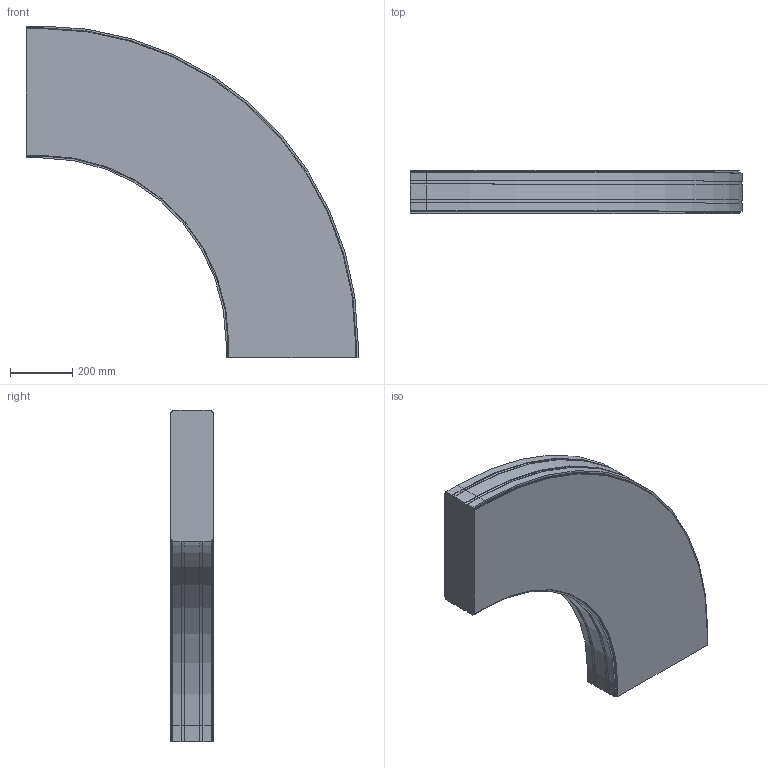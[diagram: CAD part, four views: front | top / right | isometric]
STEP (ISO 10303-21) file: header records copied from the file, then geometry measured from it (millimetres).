
FILE_DESCRIPTION (( 'STEP AP214' ), '1' );
FILE_NAME ('FS-MTC2-150-INOX horizontaalbocht.420 90°.STEP', '2017-02-08T12:40:35', ( '' ), ( '' ), 'SwSTEP 2.0', 'SolidWorks 2016', '' );
FILE_SCHEMA (( 'AUTOMOTIVE_DESIGN' ));
Length unit declared in the file: millimetre
Products named in the file (1): FS-MTC2-150-INOX horizontaalbocht.420 90°
Bounding box: 1064 x 136.5 x 1064 mm (x, y, z)
Volume: 78198407.9 mm3; surface area: 1665764 mm2
Topology: 1 solids, 1 shells, 74 faces, 216 edges, 144 vertices
Faces by surface type: plane 56, cylinder 18
Entity records: 2470 total; most frequent: CARTESIAN_POINT 435, ORIENTED_EDGE 432, DIRECTION 402, EDGE_CURVE 216, VECTOR 180, LINE 180, VERTEX_POINT 144, AXIS2_PLACEMENT_3D 111
